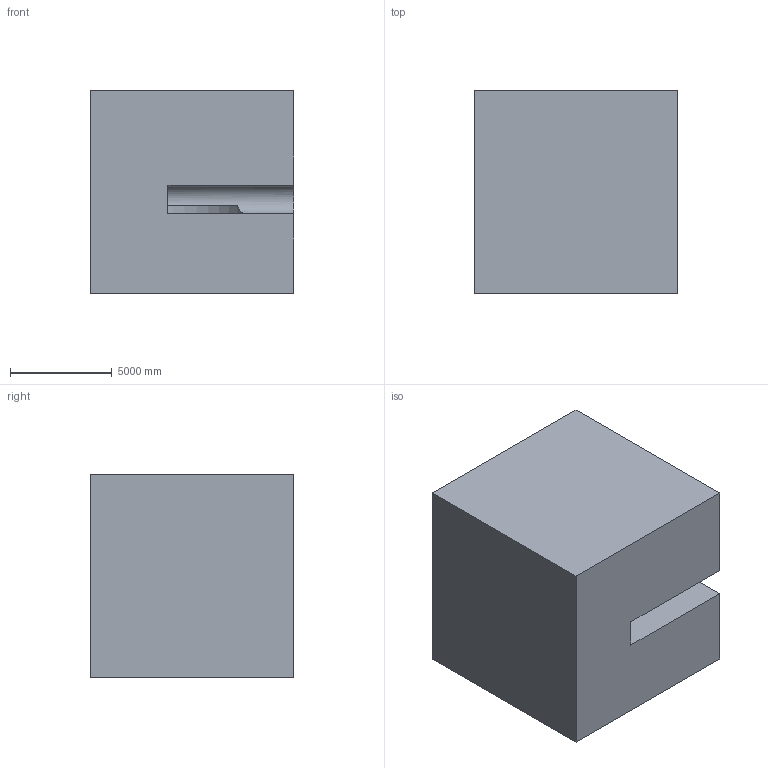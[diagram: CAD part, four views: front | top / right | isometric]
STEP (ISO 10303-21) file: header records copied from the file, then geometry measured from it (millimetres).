
FILE_DESCRIPTION (( 'STEP AP203' ), '1' );
FILE_NAME ('109.STEP', '2022-09-06T13:17:27', ( 'user' ), ( '' ), 'SwSTEP 2.0', 'SolidWorks 2021', '' );
FILE_SCHEMA (( 'CONFIG_CONTROL_DESIGN' ));
Length unit declared in the file: centimetre
Products named in the file (1): 109
Bounding box: 10000 x 10000 x 10000 mm (x, y, z)
Volume: 757745042100.2 mm3; surface area: 746789751.4 mm2
Topology: 1 solids, 1 shells, 13 faces, 36 edges, 24 vertices
Faces by surface type: plane 10, cylinder 3
Entity records: 545 total; most frequent: CARTESIAN_POINT 122, ORIENTED_EDGE 72, DIRECTION 71, EDGE_CURVE 36, VECTOR 27, LINE 27, VERTEX_POINT 24, AXIS2_PLACEMENT_3D 22
